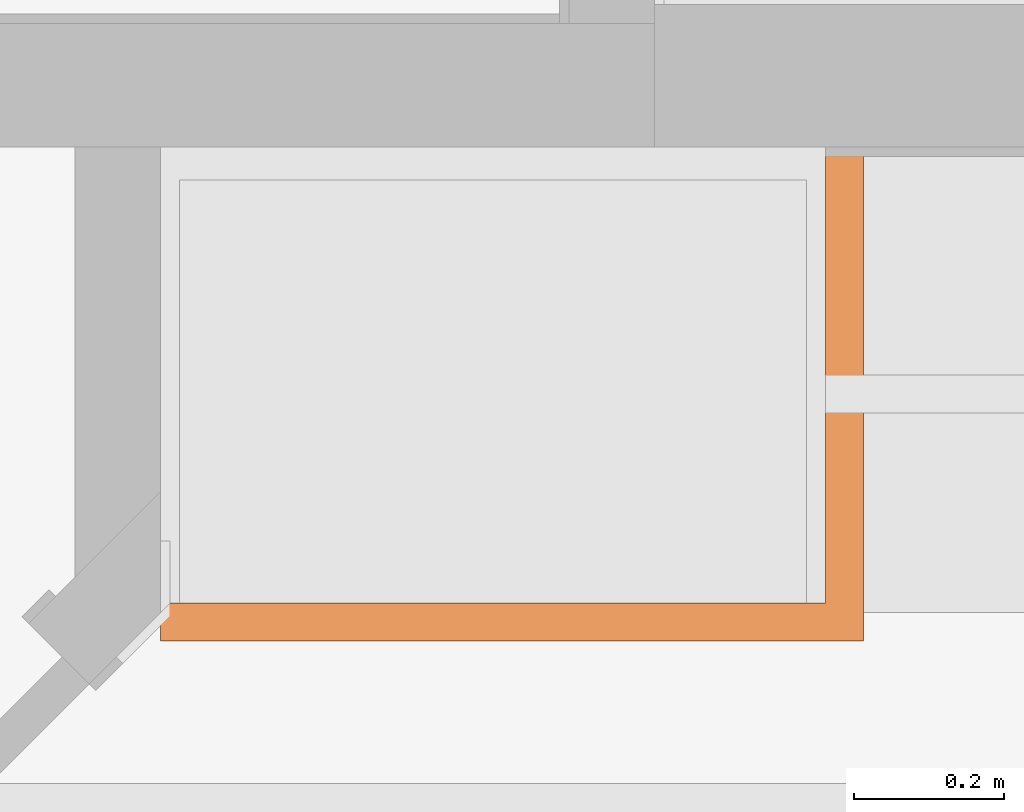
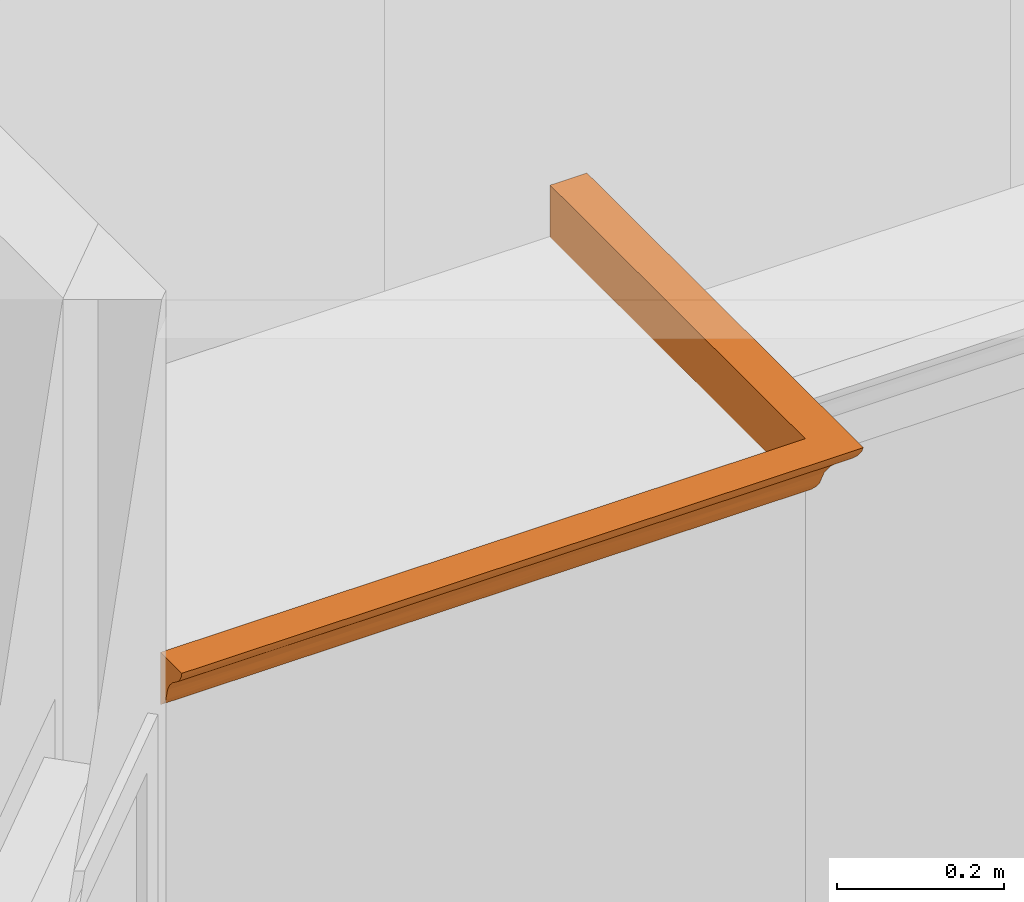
# One storey, part 77 of 81: 1 proxy.
"""IFC2X3 building model written with IfcOpenShell, lengths in feet."""

from ifc_helpers import new_model, entity, si_unit, converted_unit, derived_unit, direction, frame, origin, place, context, subcontext, project, spatial, faceted_brep, source, transform, mapped, material, type_object, type_shapes, element, save


model = new_model("IFC2X3")

# Units and contexts
model_context = context("Model", 3, precision=0.0001, world=origin(), true_north=direction((6.12303176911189e-17, 1.0)))
body_context = subcontext(model_context, "Body", "Model", "MODEL_VIEW")
ifc_project = project(units=[converted_unit("LENGTHUNIT", "FOOT", entity("IfcRatioMeasure", 0.3048), si_unit("LENGTHUNIT", "METRE"), dimensions=[1, 0, 0, 0, 0, 0, 0]), converted_unit("AREAUNIT", "SQUARE FOOT", entity("IfcRatioMeasure", 0.09290304), si_unit("AREAUNIT", "SQUARE_METRE"), dimensions=[2, 0, 0, 0, 0, 0, 0]), converted_unit("VOLUMEUNIT", "CUBIC FOOT", entity("IfcRatioMeasure", 0.028316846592), si_unit("VOLUMEUNIT", "CUBIC_METRE"), dimensions=[3, 0, 0, 0, 0, 0, 0]), converted_unit("PLANEANGLEUNIT", "DEGREE", entity("IfcRatioMeasure", 0.0174532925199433), si_unit("PLANEANGLEUNIT", "RADIAN"), dimensions=[0, 0, 0, 0, 0, 0, 0]), si_unit("MASSUNIT", "GRAM", prefix="KILO"), derived_unit("MASSDENSITYUNIT", [(si_unit("MASSUNIT", "GRAM", prefix="KILO"), 1), (si_unit("LENGTHUNIT", "METRE"), -3)]), derived_unit("MOMENTOFINERTIAUNIT", [(si_unit("LENGTHUNIT", "METRE"), 4)]), si_unit("TIMEUNIT", "SECOND"), si_unit("FREQUENCYUNIT", "HERTZ"), si_unit("THERMODYNAMICTEMPERATUREUNIT", "DEGREE_CELSIUS"), derived_unit("THERMALTRANSMITTANCEUNIT", [(si_unit("MASSUNIT", "GRAM", prefix="KILO"), 1), (si_unit("THERMODYNAMICTEMPERATUREUNIT", "KELVIN"), -1), (si_unit("TIMEUNIT", "SECOND"), -3)]), derived_unit("VOLUMETRICFLOWRATEUNIT", [(si_unit("LENGTHUNIT", "METRE"), 3), (si_unit("TIMEUNIT", "SECOND"), -1)]), si_unit("ELECTRICCURRENTUNIT", "AMPERE"), si_unit("ELECTRICVOLTAGEUNIT", "VOLT"), si_unit("POWERUNIT", "WATT"), si_unit("FORCEUNIT", "NEWTON"), si_unit("ILLUMINANCEUNIT", "LUX"), si_unit("LUMINOUSFLUXUNIT", "LUMEN"), si_unit("LUMINOUSINTENSITYUNIT", "CANDELA"), derived_unit("USERDEFINED", [(si_unit("MASSUNIT", "GRAM", prefix="KILO"), -1), (si_unit("LENGTHUNIT", "METRE"), -2), (si_unit("TIMEUNIT", "SECOND"), 3), (si_unit("LUMINOUSFLUXUNIT", "LUMEN"), 1)]), derived_unit("LINEARVELOCITYUNIT", [(si_unit("LENGTHUNIT", "METRE"), 1), (si_unit("TIMEUNIT", "SECOND"), -1)]), si_unit("PRESSUREUNIT", "PASCAL"), derived_unit("USERDEFINED", [(si_unit("LENGTHUNIT", "METRE"), -2), (si_unit("MASSUNIT", "GRAM", prefix="KILO"), 1), (si_unit("TIMEUNIT", "SECOND"), -2)]), derived_unit("LINEARFORCEUNIT", [(si_unit("MASSUNIT", "GRAM", prefix="KILO"), 1), (si_unit("LENGTHUNIT", "METRE"), 1), (si_unit("TIMEUNIT", "SECOND"), -2), (si_unit("LENGTHUNIT", "METRE"), -1)]), derived_unit("PLANARFORCEUNIT", [(si_unit("MASSUNIT", "GRAM", prefix="KILO"), 1), (si_unit("LENGTHUNIT", "METRE"), 1), (si_unit("TIMEUNIT", "SECOND"), -2), (si_unit("LENGTHUNIT", "METRE"), -2)])], contexts=[model_context])

# Site, building, storey
site_placement = place(None, origin())
site = spatial("IfcSite", under=ifc_project, at=site_placement, Name="Default", CompositionType="ELEMENT")
building_placement = place(site_placement, origin())
building = spatial("IfcBuilding", under=site, at=building_placement, CompositionType="ELEMENT")
storey_placement = place(building_placement, origin())
storey = spatial("IfcBuildingStorey", under=building, at=storey_placement, Name="First floor", CompositionType="ELEMENT", Elevation=0.0)

# Proxy
ifc_material = material(Name="Default New Material")
building_element_proxy_type = type_object("IfcBuildingElementProxyType", Name="Generic Models 35:Generic Models 28", PredefinedType="NOTDEFINED", material=ifc_material)
shared_shape = source(origin(), body_context, "Body", "Brep", [
    faceted_brep([(0.0, 0.154525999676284, 0.0179947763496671), (0.0, 0.140565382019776, 0.0344208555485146), (0.0, 0.130772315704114, 0.0536253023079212), (0.0, 0.125675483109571, 0.0745713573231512), (0.0, 0.117492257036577, 0.108201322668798), (0.0, 0.10176898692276, 0.139035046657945), (0.0, 0.079354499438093, 0.165407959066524), (0.0, 0.0514588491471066, 0.185896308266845), (0.0, 0.03408434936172, 0.198657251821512), (0.0, 0.0201237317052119, 0.215083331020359), (0.0, 0.0103306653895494, 0.234287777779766), (0.0, 0.00523383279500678, 0.255233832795), (0.0, 0.171900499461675, 0.255233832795), (0.0, 0.171900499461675, 0.00523383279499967), (2.91666666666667, 2.17190049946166, 0.00523383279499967), (2.91666666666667, 2.17190049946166, 0.255233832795), (3.08333333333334, 2.17190049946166, 0.255233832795), (3.0782365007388, 2.17190049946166, 0.234287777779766), (3.06844343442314, 2.17190049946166, 0.215083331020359), (3.05448281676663, 2.17190049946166, 0.198657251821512), (3.03710831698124, 2.17190049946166, 0.185896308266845), (3.00921266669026, 2.17190049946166, 0.165407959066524), (2.98679817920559, 2.17190049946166, 0.139035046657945), (2.97107490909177, 2.17190049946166, 0.108201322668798), (2.96289168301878, 2.17190049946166, 0.0745713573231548), (2.95779485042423, 2.17190049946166, 0.0536253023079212), (2.94800178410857, 2.17190049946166, 0.0344208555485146), (2.93404116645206, 2.17190049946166, 0.0179947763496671), (2.35369464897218, 0.125675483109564, 0.0745713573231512), (2.58824909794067, 0.13485361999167, 0.0442426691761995), (2.65829316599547, 0.125675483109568, 0.0745713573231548), (2.03646012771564, 0.133081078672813, 0.0479768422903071), (2.39092607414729, 0.146284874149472, 0.0267335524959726), (2.69695132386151, 0.146718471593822, 0.0262134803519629), (2.93404116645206, 0.154525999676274, 0.0179947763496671), (2.61206827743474, 0.171900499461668, 0.00523383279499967), (2.91666666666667, 0.171900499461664, 0.00523383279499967), (0.30459838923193, 0.171900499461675, 0.00523383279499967), (0.528376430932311, 0.14706700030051, 0.025800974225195), (2.4597690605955, 0.158838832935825, 0.0142195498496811), (2.94800178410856, 0.140565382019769, 0.0344208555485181), (0.832950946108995, 0.156476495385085, 0.0162289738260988), (0.456897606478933, 0.159322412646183, 0.0138246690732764), (0.360940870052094, 0.135109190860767, 0.0437376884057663), (0.609196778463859, 0.171900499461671, 0.00523383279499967), (0.456897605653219, 0.128829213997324, 0.0594490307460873), (1.48144584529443, 0.139819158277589, 0.0355581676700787), (1.73413191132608, 0.134675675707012, 0.0445988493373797), (1.40455037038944, 0.130144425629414, 0.0553717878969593), (2.07374936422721, 0.155650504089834, 0.016964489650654), (2.95779485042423, 0.130772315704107, 0.0536253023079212), (1.21372781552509, 0.153700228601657, 0.0187734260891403), (1.45833333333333, 0.171900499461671, 0.00523383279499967), (1.6706174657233, 0.155669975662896, 0.0169469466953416), (0.977413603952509, 0.144329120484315, 0.0291797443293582), (0.646551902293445, 0.13342631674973, 0.0472148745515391), (1.87182792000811, 0.143103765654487, 0.0308030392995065), (1.74449797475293, 0.125675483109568, 0.0745713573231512), (1.88290151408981, 0.171900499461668, 0.00523383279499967), (1.03376515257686, 0.171900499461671, 0.00523383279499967), (0.304598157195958, 0.125675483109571, 0.0745713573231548), (2.96289168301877, 0.125675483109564, 0.0745713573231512), (0.938476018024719, 0.134089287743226, 0.0458005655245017), (1.2183933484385, 0.125675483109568, 0.0745713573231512), (2.30746988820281, 0.171900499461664, 0.00523383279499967), (0.609196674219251, 0.125675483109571, 0.0745713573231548), (0.913795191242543, 0.125675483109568, 0.0745713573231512), (2.19097626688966, 0.125675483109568, 0.0745713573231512), (2.04909649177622, 0.125675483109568, 0.0745713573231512), (1.54383083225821, 0.125675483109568, 0.0745713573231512), (0.771915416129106, 0.125675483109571, 0.0745713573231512), (1.39222428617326, 0.117729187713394, 0.107557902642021), (1.86740357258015, 0.114409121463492, 0.115857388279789), (1.50270362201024, 0.105908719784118, 0.132460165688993), (0.999542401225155, 0.110529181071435, 0.124076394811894), (0.914246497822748, 0.12039381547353, 0.0995782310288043), (0.455823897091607, 0.110529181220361, 0.124076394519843), (0.456926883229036, 0.12119027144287, 0.0968548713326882), (2.5613991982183, 0.0907023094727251, 0.153608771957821), (3.00921266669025, 0.0793544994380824, 0.165407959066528), (2.26519289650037, 0.0514588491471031, 0.185896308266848), (2.03368774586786, 0.089936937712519, 0.154490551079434), (2.44990159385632, 0.110154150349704, 0.124806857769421), (2.98679817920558, 0.101768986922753, 0.139035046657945), (0.631613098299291, 0.0913303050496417, 0.152874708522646), (2.50279966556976, 0.121021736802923, 0.0974475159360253), (1.97323282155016, 0.0514588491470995, 0.185896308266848), (1.51855406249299, 0.0514588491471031, 0.185896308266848), (1.4932774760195, 0.0514588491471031, 0.185896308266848), (0.471920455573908, 0.0711960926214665, 0.172472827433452), (0.771915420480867, 0.0514588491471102, 0.185896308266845), (0.609196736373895, 0.0514588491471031, 0.185896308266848), (0.304598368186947, 0.0514588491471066, 0.185896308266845), (1.33248939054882, 0.090399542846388, 0.153959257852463), (2.97107490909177, 0.11749225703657, 0.108201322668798), (1.06387549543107, 0.0514588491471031, 0.185896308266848), (3.03710831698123, 0.0514588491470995, 0.185896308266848), (3.05448281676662, 0.0340843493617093, 0.198657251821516), (2.73250994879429, 0.0514588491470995, 0.185896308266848), (2.42791158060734, 0.051458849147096, 0.185896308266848), (2.81739297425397, 0.0262768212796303, 0.206875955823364), (2.70869074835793, 0.0144119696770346, 0.224905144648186), (2.51136772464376, 0.0258432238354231, 0.207396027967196), (2.47413659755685, 0.00523383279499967, 0.255233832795), (2.15690177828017, 0.0126394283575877, 0.228639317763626), (2.58021071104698, 0.0383971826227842, 0.194882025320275), (0.528376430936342, 0.0266253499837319, 0.206463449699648), (2.77873496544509, 0.00523383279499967, 0.255233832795), (0.842645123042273, 0.0361387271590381, 0.196800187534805), (0.456897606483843, 0.0388807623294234, 0.194487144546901), (0.360940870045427, 0.01466754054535, 0.224400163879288), (0.456897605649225, 0.0083875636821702, 0.240111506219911), (0.942073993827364, 0.0136064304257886, 0.226549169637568), (0.842562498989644, 0.0230898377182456, 0.210890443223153), (1.1780530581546, 0.0208401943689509, 0.214024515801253), (1.38003014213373, 0.009977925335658, 0.235255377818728), (1.82384577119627, 0.0137934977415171, 0.226159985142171), (1.54166649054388, 0.00523383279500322, 0.255233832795), (2.18491723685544, 0.0353003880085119, 0.197544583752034), (1.74589349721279, 0.0337382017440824, 0.198981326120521), (3.06844343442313, 0.0201237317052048, 0.215083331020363), (3.07823650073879, 0.0103306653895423, 0.234287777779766), (1.21839347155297, 0.00523383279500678, 0.255233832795), (1.86493986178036, 0.00523383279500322, 0.255233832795), (1.54166667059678, 0.0190002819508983, 0.216809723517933), (1.9906360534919, 0.0226040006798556, 0.21154437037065), (0.648339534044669, 0.0129991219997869, 0.227845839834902), (0.304598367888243, 0.00523383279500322, 0.255233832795), (3.08333333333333, 0.00523383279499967, 0.255233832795), (1.29121482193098, 0.0330328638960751, 0.199652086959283), (0.609196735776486, 0.00523383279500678, 0.255233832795), (0.913795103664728, 0.00523383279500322, 0.255233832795), (2.1695382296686, 0.00523383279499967, 0.255233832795), (2.91666666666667, 0.171900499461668, 0.255233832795), (3.08333333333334, 0.309832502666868, 0.255233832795), (3.08333333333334, 0.614430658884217, 0.255233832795), (3.08333333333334, 0.919028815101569, 0.255233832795), (3.08333333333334, 1.22362697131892, 0.255233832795), (3.08333333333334, 1.69776399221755, 0.255233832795), (2.953722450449, 0.513102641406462, 0.0442604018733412), (2.95586213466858, 1.05011708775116, 0.0488282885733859), (2.96289168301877, 0.734871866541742, 0.0745713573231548), (2.95345797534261, 1.59330771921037, 0.0437376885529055), (2.93958360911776, 1.26330170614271, 0.0236162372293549), (2.95345797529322, 1.91205592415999, 0.0437376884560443), (2.95912317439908, 1.75268182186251, 0.0574626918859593), (2.91666666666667, 0.562703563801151, 0.00523383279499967), (2.9313531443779, 0.583478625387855, 0.0155869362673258), (2.96289168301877, 1.75798461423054, 0.0745713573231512), (2.94150016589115, 1.79424866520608, 0.0258009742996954), (2.95936778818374, 1.44852698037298, 0.0582343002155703), (2.94233482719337, 0.734902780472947, 0.0267970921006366), (2.94187799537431, 0.412211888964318, 0.0262483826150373), (2.96289168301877, 0.430273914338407, 0.0745713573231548), (2.92929277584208, 1.71500289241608, 0.0138636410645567), (2.91666666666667, 1.56270367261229, 0.00523383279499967), (2.96289168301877, 1.39998507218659, 0.0745713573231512), (2.96289168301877, 1.34406872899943, 0.0745713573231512), (2.96289168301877, 1.03947029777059, 0.0745713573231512), (2.91666666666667, 1.86730219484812, 0.00523383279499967), (2.93136886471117, 0.896596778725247, 0.0156004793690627), (2.91666666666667, 1.25810515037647, 0.00523383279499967), (2.91666666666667, 0.953506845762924, 0.00523383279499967), (2.96289168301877, 0.762830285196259, 0.0745713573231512), (2.96834500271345, 1.08140770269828, 0.100141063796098), (2.9972368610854, 1.75146020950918, 0.152874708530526), (2.97851448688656, 0.780837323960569, 0.125002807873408), (2.99800685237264, 0.625433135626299, 0.153773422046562), (3.01851077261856, 0.520712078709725, 0.173380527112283), (3.03710831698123, 0.823374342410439, 0.185896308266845), (3.03710831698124, 0.502482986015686, 0.185896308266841), (2.96851213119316, 0.594443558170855, 0.100681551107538), (2.9780379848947, 1.56350763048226, 0.124076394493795), (3.015171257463, 1.00364571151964, 0.17066828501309), (3.03710831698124, 1.49763735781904, 0.185896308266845), (3.03710831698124, 1.25810546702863, 0.185896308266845), (3.03710831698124, 0.953506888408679, 0.185896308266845), (3.01406104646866, 1.49425191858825, 0.169730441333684), (2.99723686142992, 1.2370436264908, 0.15287470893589), (2.96812576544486, 1.53672844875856, 0.0994207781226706), (3.03710831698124, 1.86730215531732, 0.185896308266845), (3.03710831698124, 1.56270381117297, 0.185896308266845), (3.0496512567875, 1.71500289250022, 0.194458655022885), (3.05881663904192, 1.23502228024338, 0.202969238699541), (3.0765992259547, 0.9299345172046, 0.230176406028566), (3.07417344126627, 0.406077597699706, 0.224941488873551), (3.06282871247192, 0.65154953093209, 0.207522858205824), (3.07319933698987, 1.88278332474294, 0.223054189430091), (3.07958351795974, 1.71010566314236, 0.23818331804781), (3.08021256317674, 1.41330475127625, 0.240222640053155), (3.04937869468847, 0.322846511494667, 0.194238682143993), (3.06194181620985, 1.78021655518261, 0.2064634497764), (3.06234846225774, 0.312037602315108, 0.206945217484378), (3.05040942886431, 0.624119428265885, 0.195079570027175), (3.05583800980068, 0.921168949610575, 0.199945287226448), (3.07444182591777, 1.23606121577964, 0.225480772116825), (3.06768652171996, 1.01385655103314, 0.213965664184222), (3.07389962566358, 1.55400278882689, 0.224400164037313)], [[[0, 1, 2, 3, 4, 5, 6, 7, 8, 9, 10, 11, 12, 13]], [[14, 15, 16, 17, 18, 19, 20, 21, 22, 23, 24, 25, 26, 27]], [[28, 29, 30]], [[28, 31, 29]], [[32, 33, 29]], [[34, 35, 36]], [[0, 13, 37]], [[38, 1, 0]], [[34, 33, 39]], [[34, 40, 33]], [[41, 38, 42]], [[42, 0, 37]], [[43, 1, 38]], [[32, 29, 31]], [[44, 42, 37]], [[45, 2, 43]], [[46, 47, 48]], [[32, 49, 39]], [[29, 40, 50]], [[51, 52, 53]], [[1, 43, 2]], [[38, 54, 55]], [[56, 32, 31]], [[29, 50, 30]], [[57, 47, 31]], [[46, 56, 47]], [[49, 53, 58]], [[59, 51, 41]], [[2, 60, 3]], [[50, 61, 30]], [[48, 62, 46]], [[48, 63, 62]], [[34, 39, 35]], [[64, 35, 39]], [[64, 49, 58]], [[53, 56, 46]], [[39, 49, 64]], [[58, 53, 52]], [[56, 53, 49]], [[51, 53, 46]], [[54, 46, 62]], [[41, 42, 44]], [[59, 41, 44]], [[0, 42, 38]], [[51, 59, 52]], [[38, 41, 54]], [[54, 41, 51]], [[2, 45, 60]], [[65, 60, 45]], [[55, 45, 43]], [[38, 55, 43]], [[62, 66, 55]], [[32, 56, 49]], [[56, 31, 47]], [[46, 54, 51]], [[54, 62, 55]], [[29, 33, 40]], [[39, 33, 32]], [[31, 28, 67, 68, 57]], [[48, 57, 69, 63]], [[57, 48, 47]], [[55, 66, 70, 65]], [[62, 63, 66]], [[65, 45, 55]], [[71, 72, 73]], [[74, 75, 71]], [[4, 76, 5]], [[77, 70, 75]], [[76, 4, 77]], [[78, 79, 80]], [[72, 69, 57, 68, 67]], [[81, 82, 78]], [[78, 83, 79]], [[84, 76, 74]], [[82, 72, 85]], [[85, 67, 28, 30, 61]], [[84, 6, 5]], [[81, 80, 86, 87, 88]], [[89, 90, 91, 92, 7]], [[73, 72, 81]], [[93, 84, 74]], [[82, 94, 83]], [[84, 89, 6]], [[3, 77, 4]], [[93, 88, 95, 90]], [[94, 82, 85]], [[79, 96, 97, 98, 99, 80]], [[8, 7, 92]], [[72, 82, 81]], [[89, 84, 93]], [[93, 81, 88]], [[5, 76, 84]], [[76, 77, 75]], [[74, 76, 75]], [[77, 3, 60, 65, 70]], [[74, 73, 93]], [[75, 70, 66, 63, 69]], [[71, 69, 72]], [[71, 75, 69]], [[71, 73, 74]], [[93, 73, 81]], [[83, 78, 82]], [[81, 78, 80]], [[94, 85, 61]], [[67, 85, 72]], [[6, 89, 7]], [[90, 89, 93]], [[100, 101, 102]], [[103, 104, 101]], [[97, 100, 105]], [[106, 9, 8]], [[103, 101, 107]], [[104, 102, 101]], [[108, 109, 91]], [[109, 8, 92]], [[110, 9, 106]], [[111, 10, 110]], [[112, 113, 114]], [[115, 116, 117]], [[91, 109, 92]], [[86, 118, 119]], [[101, 120, 121]], [[97, 120, 100]], [[9, 110, 10]], [[112, 115, 122]], [[105, 118, 99]], [[101, 121, 107]], [[123, 116, 104]], [[124, 125, 116]], [[118, 86, 80, 99]], [[113, 126, 106]], [[10, 127, 11]], [[121, 128, 107]], [[87, 119, 129]], [[124, 116, 115]], [[129, 95, 88, 87]], [[108, 106, 109]], [[108, 113, 106]], [[87, 86, 119]], [[97, 105, 98]], [[99, 98, 105]], [[105, 102, 118]], [[104, 125, 102]], [[125, 124, 119]], [[125, 119, 118]], [[129, 119, 124]], [[108, 91, 90, 95]], [[8, 109, 106]], [[95, 129, 108]], [[129, 114, 113]], [[10, 111, 127]], [[130, 127, 111]], [[126, 111, 110]], [[106, 126, 110]], [[112, 131, 126]], [[102, 125, 118]], [[125, 104, 116]], [[104, 103, 132, 123]], [[116, 123, 117]], [[117, 122, 115]], [[130, 126, 131]], [[114, 115, 112]], [[129, 113, 108]], [[126, 113, 112]], [[129, 124, 114]], [[115, 114, 124]], [[101, 100, 120]], [[105, 100, 102]], [[112, 122, 131]], [[130, 111, 126]], [[12, 133, 36, 35, 64, 58, 52, 59, 44, 37, 13]], [[11, 127, 130, 131, 122, 117, 123, 132, 103, 107, 128, 134, 135, 136, 137, 138, 16, 15, 133, 12]], [[139, 140, 141]], [[142, 140, 143]], [[25, 144, 26]], [[145, 142, 144]], [[146, 147, 36]], [[145, 24, 148]], [[26, 144, 149]], [[148, 150, 145]], [[147, 151, 152]], [[26, 149, 27]], [[143, 149, 142]], [[139, 153, 50]], [[50, 40, 139]], [[154, 27, 149]], [[40, 152, 139]], [[155, 154, 143]], [[150, 148, 156, 157, 158]], [[152, 40, 34]], [[27, 159, 14]], [[160, 151, 147]], [[160, 161, 143]], [[139, 151, 140]], [[146, 160, 147]], [[34, 36, 147]], [[143, 140, 151]], [[145, 150, 142]], [[27, 154, 159]], [[155, 159, 154]], [[143, 154, 149]], [[153, 139, 141]], [[153, 61, 50]], [[139, 152, 151]], [[34, 147, 152]], [[160, 146, 162, 161]], [[143, 151, 160]], [[25, 24, 145]], [[149, 144, 142]], [[25, 145, 144]], [[150, 158, 140]], [[140, 142, 150]], [[161, 155, 143]], [[140, 158, 163, 141]], [[164, 163, 158, 157, 156]], [[22, 21, 165]], [[83, 166, 167]], [[83, 94, 166]], [[168, 169, 170, 96]], [[164, 166, 171]], [[22, 165, 172]], [[173, 174, 175, 176, 169]], [[173, 177, 174]], [[172, 165, 178]], [[165, 21, 177]], [[172, 23, 22]], [[20, 177, 21]], [[83, 167, 79]], [[172, 178, 166]], [[179, 156, 148, 24]], [[169, 168, 173]], [[156, 179, 164]], [[178, 167, 166]], [[164, 179, 172]], [[61, 171, 94]], [[178, 165, 177]], [[173, 178, 177]], [[177, 20, 180, 181, 174]], [[173, 167, 178]], [[79, 167, 168]], [[173, 168, 167]], [[79, 168, 96]], [[163, 164, 171]], [[166, 164, 172]], [[171, 61, 153, 141, 163]], [[171, 166, 94]], [[179, 23, 172]], [[23, 179, 24]], [[181, 182, 183]], [[184, 185, 186]], [[187, 17, 188]], [[138, 189, 188]], [[170, 190, 96]], [[188, 16, 138]], [[18, 187, 191]], [[192, 193, 186]], [[135, 185, 184]], [[120, 185, 121]], [[176, 175, 194]], [[185, 134, 121]], [[192, 190, 193]], [[182, 19, 191]], [[120, 192, 185]], [[184, 195, 189]], [[18, 191, 19]], [[97, 192, 120]], [[190, 192, 97]], [[194, 196, 186]], [[189, 137, 184]], [[191, 197, 183]], [[184, 137, 136, 135]], [[19, 180, 20]], [[196, 195, 184]], [[193, 194, 186]], [[19, 182, 180]], [[181, 180, 182]], [[183, 182, 191]], [[134, 185, 135]], [[134, 128, 121]], [[185, 192, 186]], [[96, 190, 97]], [[190, 170, 193]], [[193, 170, 169, 176]], [[183, 175, 174, 181]], [[176, 194, 193]], [[196, 194, 183]], [[195, 183, 197]], [[186, 196, 184]], [[183, 195, 196]], [[195, 197, 189]], [[188, 189, 197]], [[138, 137, 189]], [[187, 188, 197]], [[16, 188, 17]], [[191, 187, 197]], [[17, 187, 18]], [[194, 175, 183]], [[36, 133, 15, 14, 159, 155, 161, 162, 146]]]),
])
type_shapes(building_element_proxy_type, [shared_shape])
proxy_placement = place(storey_placement, frame((2.41632952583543, 30.7864328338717, 18.6562245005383)))
element("IfcBuildingElementProxy", 1, at=proxy_placement, inside=storey, type_object=building_element_proxy_type, material=ifc_material, Name="Generic Models 35:Generic Models 28", ObjectType="Generic Models 35:Generic Models 28", context=body_context, shape_type="MappedRepresentation", body=[
    mapped(shared_shape, transform((0.0, 0.0, 0.0), scale=1.0)),
])

save(model, "model.ifc")
